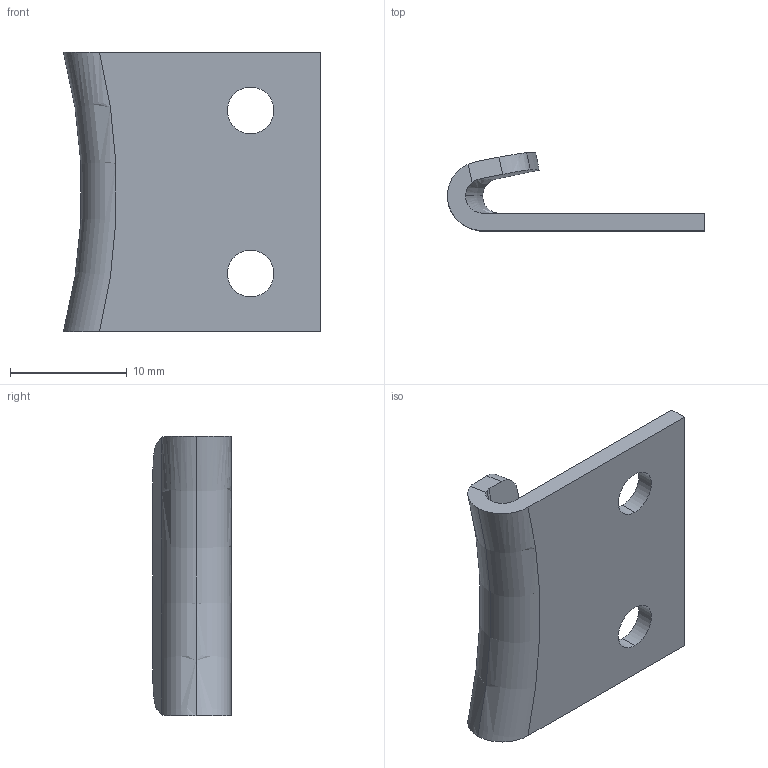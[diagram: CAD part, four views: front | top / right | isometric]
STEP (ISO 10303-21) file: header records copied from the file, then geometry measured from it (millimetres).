
FILE_DESCRIPTION (( 'STEP AP214' ), '1' );
FILE_NAME ('M1429L9.STEP', '2009-09-16T08:05:54', ( '' ), ( '' ), 'SwSTEP 2.0', 'SolidWorks 2007', '' );
FILE_SCHEMA (( 'AUTOMOTIVE_DESIGN' ));
Length unit declared in the file: millimetre
Products named in the file (1): M1429L9
Bounding box: 22.06 x 6.7 x 24 mm (x, y, z)
Volume: 975.9 mm3; surface area: 1496.5 mm2
Topology: 1 solids, 1 shells, 21 faces, 57 edges, 38 vertices
Faces by surface type: plane 5, torus 4, cylinder 4, cone 4, bspline 4
Entity records: 892 total; most frequent: CARTESIAN_POINT 375, ORIENTED_EDGE 114, DIRECTION 85, EDGE_CURVE 57, VERTEX_POINT 38, AXIS2_PLACEMENT_3D 36, B_SPLINE_CURVE_WITH_KNOTS 26, EDGE_LOOP 25
